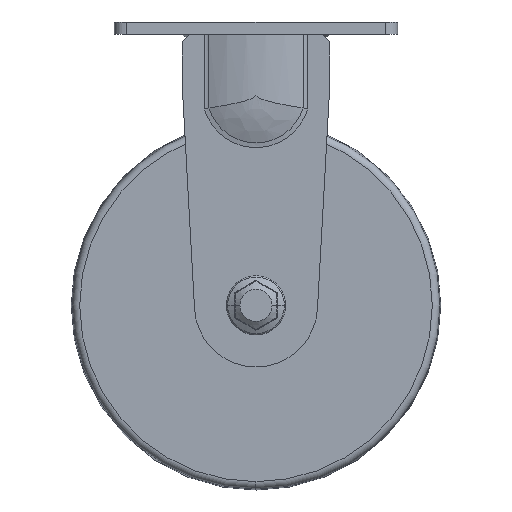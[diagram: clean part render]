
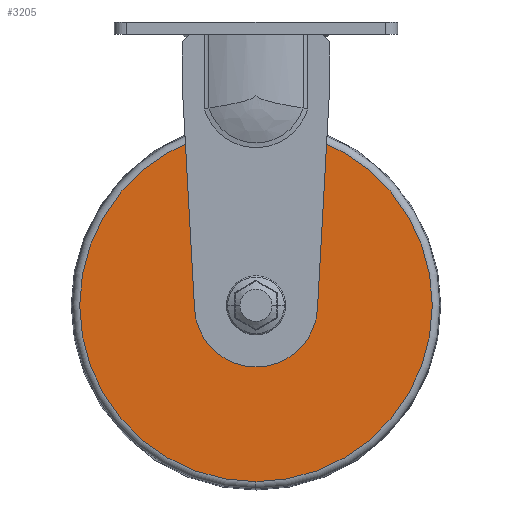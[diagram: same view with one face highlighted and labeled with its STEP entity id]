
A CAD part, front view. The second image highlights one B-rep face of the part: STEP entity #3205.
In plain terms, the highlighted planar face has unit normal (0, -1, 0).
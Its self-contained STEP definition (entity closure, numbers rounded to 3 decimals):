
#215=CARTESIAN_POINT('',(-36.365,-106.785,-58.444));
#216=VERTEX_POINT('',#215);
#225=CARTESIAN_POINT('',(-36.365,-106.785,-201.556));
#226=VERTEX_POINT('',#225);
#234=CARTESIAN_POINT('',(-36.365,-106.785,-130.0));
#235=DIRECTION('',(0.0,1.0,0.0));
#236=DIRECTION('',(0.0,0.0,1.0));
#237=AXIS2_PLACEMENT_3D('',#234,#235,#236);
#238=CIRCLE('',#237,71.556);
#239=EDGE_CURVE('',#226,#216,#238,.T.);
#283=CARTESIAN_POINT('',(-36.365,-106.785,-120.0));
#284=VERTEX_POINT('',#283);
#293=CARTESIAN_POINT('',(-36.365,-106.785,-140.0));
#294=VERTEX_POINT('',#293);
#295=CARTESIAN_POINT('',(-36.365,-106.785,-130.0));
#296=DIRECTION('',(0.0,1.0,0.0));
#297=DIRECTION('',(0.0,0.0,1.0));
#298=AXIS2_PLACEMENT_3D('',#295,#296,#297);
#299=CIRCLE('',#298,10.0);
#300=EDGE_CURVE('',#294,#284,#299,.T.);
#3138=CARTESIAN_POINT('',(-36.365,-106.785,-130.0));
#3139=DIRECTION('',(0.0,1.0,0.0));
#3140=DIRECTION('',(0.0,0.0,1.0));
#3141=AXIS2_PLACEMENT_3D('',#3138,#3139,#3140);
#3142=CIRCLE('',#3141,10.0);
#3143=EDGE_CURVE('',#284,#294,#3142,.T.);
#3186=CARTESIAN_POINT('',(-36.365,-106.785,-89.222));
#3187=DIRECTION('',(0.0,-1.0,0.0));
#3188=DIRECTION('',(0.0,0.0,-1.0));
#3189=AXIS2_PLACEMENT_3D('',#3186,#3187,#3188);
#3190=PLANE('',#3189);
#3191=CARTESIAN_POINT('',(-36.365,-106.785,-130.0));
#3192=DIRECTION('',(0.0,1.0,0.0));
#3193=DIRECTION('',(0.0,0.0,1.0));
#3194=AXIS2_PLACEMENT_3D('',#3191,#3192,#3193);
#3195=CIRCLE('',#3194,71.556);
#3196=EDGE_CURVE('',#216,#226,#3195,.T.);
#3197=ORIENTED_EDGE('',*,*,#3196,.F.);
#3198=ORIENTED_EDGE('',*,*,#239,.F.);
#3199=EDGE_LOOP('',(#3197,#3198));
#3200=FACE_OUTER_BOUND('',#3199,.T.);
#3201=ORIENTED_EDGE('',*,*,#3143,.T.);
#3202=ORIENTED_EDGE('',*,*,#300,.T.);
#3203=EDGE_LOOP('',(#3201,#3202));
#3204=FACE_BOUND('',#3203,.T.);
#3205=ADVANCED_FACE('',(#3200,#3204),#3190,.T.);
